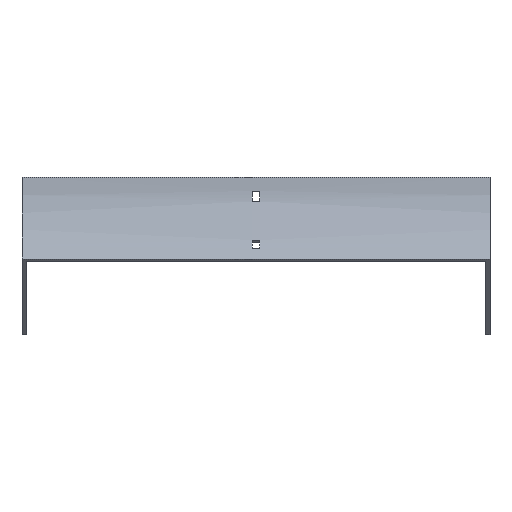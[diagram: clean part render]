
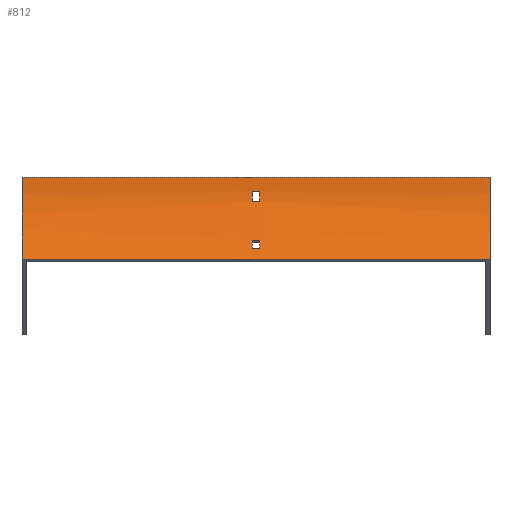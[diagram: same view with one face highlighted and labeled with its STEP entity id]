
A CAD part, front view. The second image highlights one B-rep face of the part: STEP entity #812.
In plain terms, the highlighted cylindrical face has radius 100 mm (diameter 200 mm), a partial arc.
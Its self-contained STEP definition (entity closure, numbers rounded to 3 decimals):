
#9 = AXIS2_PLACEMENT_3D ( 'NONE', #153, #816, #1458 ) ;
#10 = AXIS2_PLACEMENT_3D ( 'NONE', #50, #1502, #824 ) ;
#17 = DIRECTION ( 'NONE',  ( 0., 0., 1. ) ) ;
#23 = AXIS2_PLACEMENT_3D ( 'NONE', #1542, #878, #1560 ) ;
#28 = VERTEX_POINT ( 'NONE', #1635 ) ;
#50 = CARTESIAN_POINT ( 'NONE',  ( 202., -100., 0. ) ) ;
#75 = CIRCLE ( 'NONE', #23, 100. ) ;
#77 = DIRECTION ( 'NONE',  ( 0., 0., 1. ) ) ;
#99 = EDGE_CURVE ( 'NONE', #662, #591, #111, .T. ) ;
#101 = VERTEX_POINT ( 'NONE', #102 ) ;
#102 = CARTESIAN_POINT ( 'NONE',  ( 202., -29.289, -70.711 ) ) ;
#111 = LINE ( 'NONE', #351, #1435 ) ;
#115 = ORIENTED_EDGE ( 'NONE', *, *, #1188, .T. ) ;
#121 = CARTESIAN_POINT ( 'NONE',  ( -3.25, -21.315, -61.714 ) ) ;
#124 = DIRECTION ( 'NONE',  ( 1., 0., 0. ) ) ;
#153 = CARTESIAN_POINT ( 'NONE',  ( -3.25, -100., 0. ) ) ;
#224 = VECTOR ( 'NONE', #1555, 1000. ) ;
#253 = DIRECTION ( 'NONE',  ( -1., 0., 0. ) ) ;
#326 = ORIENTED_EDGE ( 'NONE', *, *, #805, .F. ) ;
#327 = EDGE_CURVE ( 'NONE', #1578, #781, #1581, .T. ) ;
#328 = AXIS2_PLACEMENT_3D ( 'NONE', #1242, #730, #77 ) ;
#351 = CARTESIAN_POINT ( 'NONE',  ( 202., -16.017, -54.285 ) ) ;
#374 = CARTESIAN_POINT ( 'NONE',  ( 202., -29.289, -70.711 ) ) ;
#403 = AXIS2_PLACEMENT_3D ( 'NONE', #1425, #772, #1298 ) ;
#408 = FACE_BOUND ( 'NONE', #1264, .T. ) ;
#416 = EDGE_CURVE ( 'NONE', #677, #1544, #1161, .T. ) ;
#453 = VECTOR ( 'NONE', #124, 1000. ) ;
#468 = VECTOR ( 'NONE', #1302, 1000. ) ;
#470 = DIRECTION ( 'NONE',  ( 0., 0., -1. ) ) ;
#479 = CARTESIAN_POINT ( 'NONE',  ( -202., -29.289, -70.711 ) ) ;
#509 = EDGE_LOOP ( 'NONE', ( #115, #982, #326, #1693 ) ) ;
#524 = CIRCLE ( 'NONE', #9, 100. ) ;
#526 = EDGE_CURVE ( 'NONE', #1544, #662, #1595, .T. ) ;
#591 = VERTEX_POINT ( 'NONE', #897 ) ;
#593 = VECTOR ( 'NONE', #1271, 1000. ) ;
#612 = CARTESIAN_POINT ( 'NONE',  ( -3.25, -0.723, -12. ) ) ;
#629 = CARTESIAN_POINT ( 'NONE',  ( 202., -0.723, -12. ) ) ;
#633 = AXIS2_PLACEMENT_3D ( 'NONE', #660, #1179, #17 ) ;
#655 = ORIENTED_EDGE ( 'NONE', *, *, #711, .T. ) ;
#660 = CARTESIAN_POINT ( 'NONE',  ( 202., -100., 0. ) ) ;
#662 = VERTEX_POINT ( 'NONE', #906 ) ;
#665 = CARTESIAN_POINT ( 'NONE',  ( 202., -21.315, -61.714 ) ) ;
#677 = VERTEX_POINT ( 'NONE', #121 ) ;
#711 = EDGE_CURVE ( 'NONE', #28, #1073, #524, .T. ) ;
#721 = CARTESIAN_POINT ( 'NONE',  ( 202., -2.23, -21. ) ) ;
#730 = DIRECTION ( 'NONE',  ( 1., 0., 0. ) ) ;
#741 = DIRECTION ( 'NONE',  ( -1., 0., 0. ) ) ;
#764 = LINE ( 'NONE', #629, #453 ) ;
#772 = DIRECTION ( 'NONE',  ( -1., 0., 0. ) ) ;
#781 = VERTEX_POINT ( 'NONE', #1340 ) ;
#805 = EDGE_CURVE ( 'NONE', #1578, #101, #1262, .T. ) ;
#812 = ADVANCED_FACE ( 'NONE', ( #1056, #1585, #408 ), #1064, .F. ) ;
#816 = DIRECTION ( 'NONE',  ( 1., 0., 0. ) ) ;
#824 = DIRECTION ( 'NONE',  ( 0., 0., 1. ) ) ;
#840 = CARTESIAN_POINT ( 'NONE',  ( 3.25, -21.315, -61.714 ) ) ;
#878 = DIRECTION ( 'NONE',  ( -1., 0., 0. ) ) ;
#893 = CIRCLE ( 'NONE', #1357, 100. ) ;
#897 = CARTESIAN_POINT ( 'NONE',  ( -3.25, -16.017, -54.285 ) ) ;
#906 = CARTESIAN_POINT ( 'NONE',  ( 3.25, -16.017, -54.285 ) ) ;
#947 = ORIENTED_EDGE ( 'NONE', *, *, #526, .F. ) ;
#967 = VERTEX_POINT ( 'NONE', #978 ) ;
#973 = CIRCLE ( 'NONE', #403, 100. ) ;
#978 = CARTESIAN_POINT ( 'NONE',  ( 3.25, -2.23, -21. ) ) ;
#982 = ORIENTED_EDGE ( 'NONE', *, *, #1090, .F. ) ;
#984 = VERTEX_POINT ( 'NONE', #1372 ) ;
#1003 = ORIENTED_EDGE ( 'NONE', *, *, #416, .F. ) ;
#1037 = ORIENTED_EDGE ( 'NONE', *, *, #1654, .T. ) ;
#1056 = FACE_OUTER_BOUND ( 'NONE', #509, .T. ) ;
#1064 = CYLINDRICAL_SURFACE ( 'NONE', #10, 100. ) ;
#1072 = ORIENTED_EDGE ( 'NONE', *, *, #1573, .T. ) ;
#1073 = VERTEX_POINT ( 'NONE', #612 ) ;
#1089 = ORIENTED_EDGE ( 'NONE', *, *, #1588, .T. ) ;
#1090 = EDGE_CURVE ( 'NONE', #101, #1526, #1132, .T. ) ;
#1099 = LINE ( 'NONE', #721, #1133 ) ;
#1132 = LINE ( 'NONE', #374, #593 ) ;
#1133 = VECTOR ( 'NONE', #741, 1000. ) ;
#1137 = ORIENTED_EDGE ( 'NONE', *, *, #99, .F. ) ;
#1151 = EDGE_CURVE ( 'NONE', #591, #677, #75, .T. ) ;
#1161 = LINE ( 'NONE', #665, #468 ) ;
#1179 = DIRECTION ( 'NONE',  ( -1., 0., 0. ) ) ;
#1188 = EDGE_CURVE ( 'NONE', #781, #1526, #973, .T. ) ;
#1193 = EDGE_LOOP ( 'NONE', ( #1072, #655, #1037, #1089 ) ) ;
#1227 = CARTESIAN_POINT ( 'NONE',  ( 3.25, -100., 0. ) ) ;
#1242 = CARTESIAN_POINT ( 'NONE',  ( 3.25, -100., 0. ) ) ;
#1262 = CIRCLE ( 'NONE', #633, 100. ) ;
#1264 = EDGE_LOOP ( 'NONE', ( #1629, #1137, #947, #1003 ) ) ;
#1271 = DIRECTION ( 'NONE',  ( -1., 0., 0. ) ) ;
#1298 = DIRECTION ( 'NONE',  ( 0., 0., 1. ) ) ;
#1302 = DIRECTION ( 'NONE',  ( 1., 0., 0. ) ) ;
#1340 = CARTESIAN_POINT ( 'NONE',  ( -202., 0., 0. ) ) ;
#1357 = AXIS2_PLACEMENT_3D ( 'NONE', #1227, #1517, #470 ) ;
#1372 = CARTESIAN_POINT ( 'NONE',  ( 3.25, -0.723, -12. ) ) ;
#1425 = CARTESIAN_POINT ( 'NONE',  ( -202., -100., 0. ) ) ;
#1435 = VECTOR ( 'NONE', #253, 1000. ) ;
#1447 = CARTESIAN_POINT ( 'NONE',  ( 202., 0., 0. ) ) ;
#1458 = DIRECTION ( 'NONE',  ( 0., 0., 1. ) ) ;
#1489 = CARTESIAN_POINT ( 'NONE',  ( 202., 0., 0. ) ) ;
#1502 = DIRECTION ( 'NONE',  ( -1., 0., 0. ) ) ;
#1517 = DIRECTION ( 'NONE',  ( -1., 0., 0. ) ) ;
#1526 = VERTEX_POINT ( 'NONE', #479 ) ;
#1542 = CARTESIAN_POINT ( 'NONE',  ( -3.25, -100., 0. ) ) ;
#1544 = VERTEX_POINT ( 'NONE', #840 ) ;
#1555 = DIRECTION ( 'NONE',  ( -1., 0., 0. ) ) ;
#1560 = DIRECTION ( 'NONE',  ( 0., 0., -1. ) ) ;
#1573 = EDGE_CURVE ( 'NONE', #967, #28, #1099, .T. ) ;
#1578 = VERTEX_POINT ( 'NONE', #1489 ) ;
#1581 = LINE ( 'NONE', #1447, #224 ) ;
#1585 = FACE_BOUND ( 'NONE', #1193, .T. ) ;
#1588 = EDGE_CURVE ( 'NONE', #984, #967, #893, .T. ) ;
#1595 = CIRCLE ( 'NONE', #328, 100. ) ;
#1629 = ORIENTED_EDGE ( 'NONE', *, *, #1151, .F. ) ;
#1635 = CARTESIAN_POINT ( 'NONE',  ( -3.25, -2.23, -21. ) ) ;
#1654 = EDGE_CURVE ( 'NONE', #1073, #984, #764, .T. ) ;
#1693 = ORIENTED_EDGE ( 'NONE', *, *, #327, .T. ) ;
